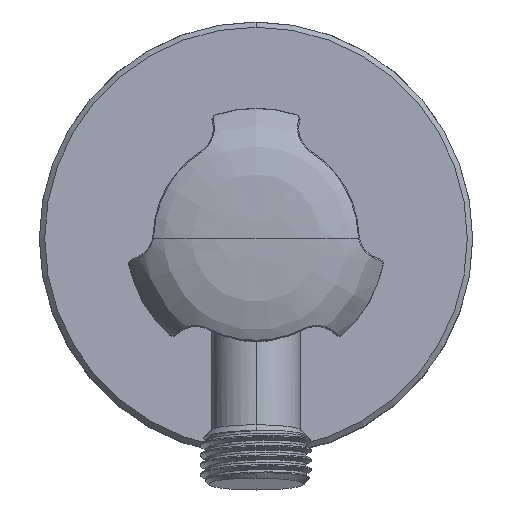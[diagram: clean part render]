
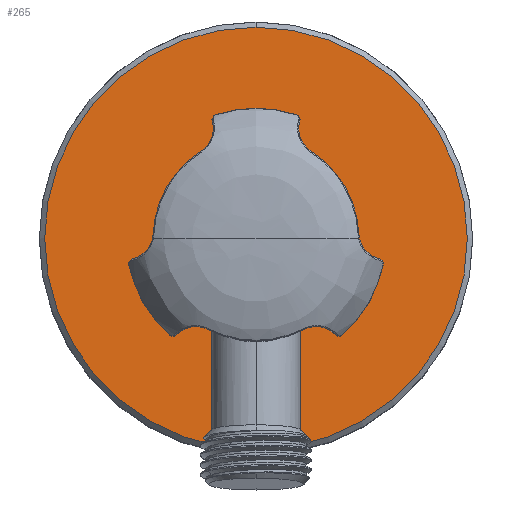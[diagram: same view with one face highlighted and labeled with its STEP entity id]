
A CAD part, top view. The second image highlights one B-rep face of the part: STEP entity #265.
In plain terms, the highlighted planar face has unit normal (0, 0.035, 0.999).
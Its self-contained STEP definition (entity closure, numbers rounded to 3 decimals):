
#146=CARTESIAN_POINT('',(0.,0.14,278.998));
#147=DIRECTION('',(0.,0.035,0.999));
#148=DIRECTION('',(0.,0.999,-0.035));
#149=AXIS2_PLACEMENT_3D('',#146,#147,#148);
#151=CARTESIAN_POINT('',(0.,0.14,278.998));
#152=DIRECTION('',(0.,0.035,0.999));
#153=DIRECTION('',(0.,-0.999,0.035));
#154=AXIS2_PLACEMENT_3D('',#151,#152,#153);
#190=CARTESIAN_POINT('',(0.,39.116,277.636));
#191=CARTESIAN_POINT('',(0.,-38.837,280.359));
#192=VERTEX_POINT('',#190);
#193=VERTEX_POINT('',#191);
#255=CARTESIAN_POINT('',(0.,0.14,278.998));
#256=DIRECTION('',(0.,-0.035,-0.999));
#257=DIRECTION('',(0.,-0.999,0.035));
#258=AXIS2_PLACEMENT_3D('',#255,#256,#257);
#259=PLANE('',#258);
#261=ORIENTED_EDGE('',*,*,#260,.F.);
#262=ORIENTED_EDGE('',*,*,#245,.F.);
#263=EDGE_LOOP('',(#261,#262));
#264=FACE_OUTER_BOUND('',#263,.F.);
#265=ADVANCED_FACE('',(#264),#259,.F.);
#150=CIRCLE('',#149,39.);
#155=CIRCLE('',#154,39.);
#245=EDGE_CURVE('',#193,#192,#155,.T.);
#260=EDGE_CURVE('',#192,#193,#150,.T.);
